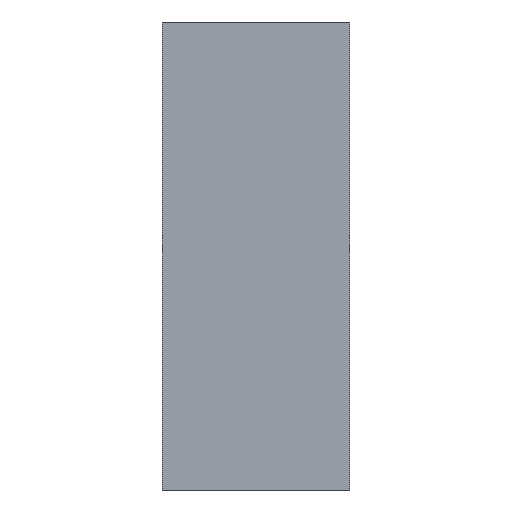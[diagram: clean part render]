
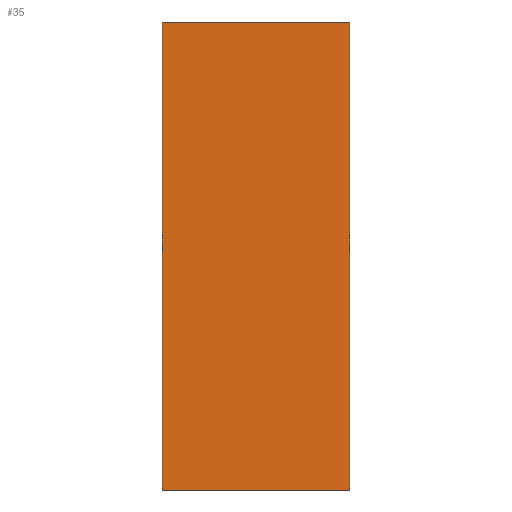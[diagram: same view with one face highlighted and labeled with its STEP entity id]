
A CAD part, left-side view. The second image highlights one B-rep face of the part: STEP entity #35.
In plain terms, the highlighted planar face has unit normal (-1, 0, 0).
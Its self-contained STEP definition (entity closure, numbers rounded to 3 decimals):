
#35=ADVANCED_FACE('',(#47),#351,.T.);
#47=FACE_OUTER_BOUND('',#59,.T.);
#59=EDGE_LOOP('',(#71,#72,#73,#74));
#71=ORIENTED_EDGE('',*,*,#239,.T.);
#72=ORIENTED_EDGE('',*,*,#240,.T.);
#73=ORIENTED_EDGE('',*,*,#241,.T.);
#74=ORIENTED_EDGE('',*,*,#242,.T.);
#119=PCURVE('',#351,#167);
#120=PCURVE('',#351,#168);
#121=PCURVE('',#351,#169);
#122=PCURVE('',#351,#170);
#126=PCURVE('',#352,#174);
#132=PCURVE('',#354,#180);
#138=PCURVE('',#355,#186);
#139=PCURVE('',#356,#187);
#167=DEFINITIONAL_REPRESENTATION('',(#264),#586);
#168=DEFINITIONAL_REPRESENTATION('',(#266),#586);
#169=DEFINITIONAL_REPRESENTATION('',(#268),#586);
#170=DEFINITIONAL_REPRESENTATION('',(#270),#586);
#174=DEFINITIONAL_REPRESENTATION('',(#277),#586);
#180=DEFINITIONAL_REPRESENTATION('',(#287),#586);
#186=DEFINITIONAL_REPRESENTATION('',(#294),#586);
#187=DEFINITIONAL_REPRESENTATION('',(#295),#586);
#215=SURFACE_CURVE('',#263,(#119,#138),.PCURVE_S1.);
#216=SURFACE_CURVE('',#265,(#120,#126),.PCURVE_S1.);
#217=SURFACE_CURVE('',#267,(#121,#139),.PCURVE_S1.);
#218=SURFACE_CURVE('',#269,(#122,#132),.PCURVE_S1.);
#239=EDGE_CURVE('',#335,#336,#215,.T.);
#240=EDGE_CURVE('',#336,#337,#216,.T.);
#241=EDGE_CURVE('',#337,#338,#217,.T.);
#242=EDGE_CURVE('',#338,#335,#218,.T.);
#263=B_SPLINE_CURVE_WITH_KNOTS('',1,(#427,#428),.UNSPECIFIED.,.F.,.F.,(2,
2),(-200.,-150.),.UNSPECIFIED.);
#264=B_SPLINE_CURVE_WITH_KNOTS('',1,(#429,#430),.UNSPECIFIED.,.F.,.F.,(2,
2),(-200.,-150.),.UNSPECIFIED.);
#265=B_SPLINE_CURVE_WITH_KNOTS('',1,(#431,#432),.UNSPECIFIED.,.F.,.F.,(2,
2),(0.,400.),.UNSPECIFIED.);
#266=B_SPLINE_CURVE_WITH_KNOTS('',1,(#433,#434),.UNSPECIFIED.,.F.,.F.,(2,
2),(0.,400.),.UNSPECIFIED.);
#267=B_SPLINE_CURVE_WITH_KNOTS('',1,(#435,#436),.UNSPECIFIED.,.F.,.F.,(2,
2),(150.,200.),.UNSPECIFIED.);
#268=B_SPLINE_CURVE_WITH_KNOTS('',1,(#437,#438),.UNSPECIFIED.,.F.,.F.,(2,
2),(150.,200.),.UNSPECIFIED.);
#269=B_SPLINE_CURVE_WITH_KNOTS('',1,(#439,#440),.UNSPECIFIED.,.F.,.F.,(2,
2),(-400.,0.),.UNSPECIFIED.);
#270=B_SPLINE_CURVE_WITH_KNOTS('',1,(#441,#442),.UNSPECIFIED.,.F.,.F.,(2,
2),(-400.,0.),.UNSPECIFIED.);
#277=B_SPLINE_CURVE_WITH_KNOTS('',1,(#455,#456),.UNSPECIFIED.,.F.,.F.,(2,
2),(0.,400.),.UNSPECIFIED.);
#287=B_SPLINE_CURVE_WITH_KNOTS('',1,(#475,#476),.UNSPECIFIED.,.F.,.F.,(2,
2),(-400.,0.),.UNSPECIFIED.);
#294=B_SPLINE_CURVE_WITH_KNOTS('',1,(#489,#490),.UNSPECIFIED.,.F.,.F.,(2,
2),(-200.,-150.),.UNSPECIFIED.);
#295=B_SPLINE_CURVE_WITH_KNOTS('',1,(#491,#492),.UNSPECIFIED.,.F.,.F.,(2,
2),(150.,200.),.UNSPECIFIED.);
#335=VERTEX_POINT('',#419);
#336=VERTEX_POINT('',#420);
#337=VERTEX_POINT('',#421);
#338=VERTEX_POINT('',#422);
#351=PLANE('',#383);
#352=PLANE('',#384);
#354=PLANE('',#386);
#355=PLANE('',#387);
#356=PLANE('',#388);
#383=AXIS2_PLACEMENT_3D('',#413,#398,$);
#384=AXIS2_PLACEMENT_3D('',#414,#399,$);
#386=AXIS2_PLACEMENT_3D('',#416,#401,$);
#387=AXIS2_PLACEMENT_3D('',#417,#402,$);
#388=AXIS2_PLACEMENT_3D('',#418,#403,$);
#398=DIRECTION('',(-1.,0.,0.));
#399=DIRECTION('',(0.,0.,1.));
#401=DIRECTION('',(0.,0.,-1.));
#402=DIRECTION('',(0.,-1.,0.));
#403=DIRECTION('',(0.,1.,0.));
#413=CARTESIAN_POINT('',(-850.,-585.,40.));
#414=CARTESIAN_POINT('',(-850.,-585.,140.));
#416=CARTESIAN_POINT('',(-810.,-585.,40.));
#417=CARTESIAN_POINT('',(-810.,-585.,40.));
#418=CARTESIAN_POINT('',(-810.,-545.,40.));
#419=CARTESIAN_POINT('',(-850.,-585.,40.));
#420=CARTESIAN_POINT('',(-850.,-585.,140.));
#421=CARTESIAN_POINT('',(-850.,-545.,140.));
#422=CARTESIAN_POINT('',(-850.,-545.,40.));
#427=CARTESIAN_POINT('',(-850.,-585.,40.));
#428=CARTESIAN_POINT('',(-850.,-585.,140.));
#429=CARTESIAN_POINT('',(-200.,0.));
#430=CARTESIAN_POINT('',(-150.,0.));
#431=CARTESIAN_POINT('',(-850.,-585.,140.));
#432=CARTESIAN_POINT('',(-850.,-545.,140.));
#433=CARTESIAN_POINT('',(-150.,0.));
#434=CARTESIAN_POINT('',(-150.,400.));
#435=CARTESIAN_POINT('',(-850.,-545.,140.));
#436=CARTESIAN_POINT('',(-850.,-545.,40.));
#437=CARTESIAN_POINT('',(-150.,400.));
#438=CARTESIAN_POINT('',(-200.,400.));
#439=CARTESIAN_POINT('',(-850.,-545.,40.));
#440=CARTESIAN_POINT('',(-850.,-585.,40.));
#441=CARTESIAN_POINT('',(-200.,400.));
#442=CARTESIAN_POINT('',(-200.,0.));
#455=CARTESIAN_POINT('',(-150.,0.));
#456=CARTESIAN_POINT('',(-150.,400.));
#475=CARTESIAN_POINT('',(0.,400.));
#476=CARTESIAN_POINT('',(0.,0.));
#489=CARTESIAN_POINT('',(0.,0.));
#490=CARTESIAN_POINT('',(40.,0.));
#491=CARTESIAN_POINT('',(0.,40.));
#492=CARTESIAN_POINT('',(0.,0.));
#586=(
GEOMETRIC_REPRESENTATION_CONTEXT(2)
PARAMETRIC_REPRESENTATION_CONTEXT()
REPRESENTATION_CONTEXT('pspace','')
);
